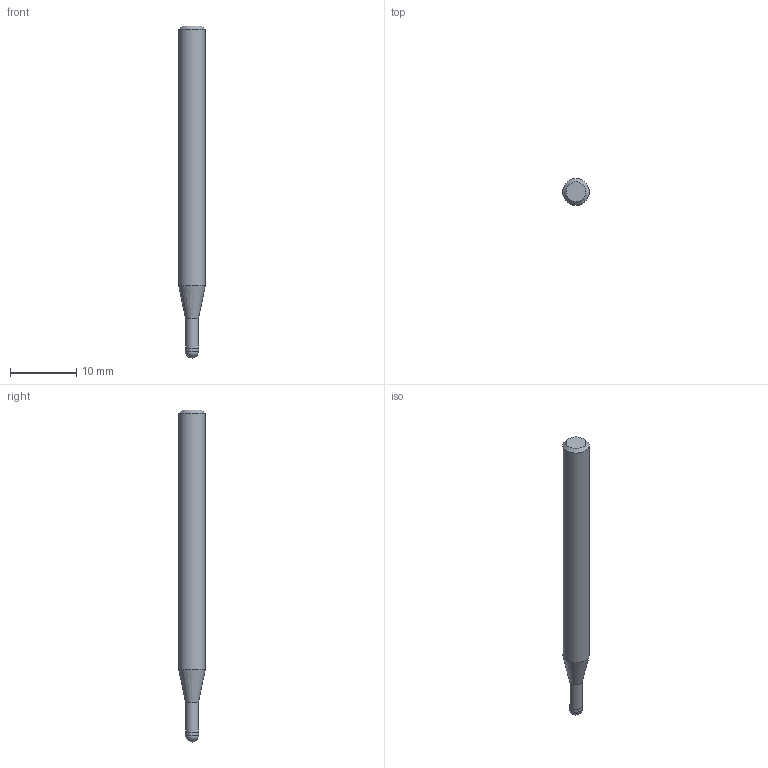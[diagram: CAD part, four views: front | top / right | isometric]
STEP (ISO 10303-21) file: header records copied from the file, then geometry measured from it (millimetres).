
FILE_DESCRIPTION((''),'2;1');
FILE_NAME('C:\Users\nsx150\AppData\Local\Temp\Mastercam 2021\ZXBT0ST9RL\TEMP.step','2021-06-25T11:03:08',(''),(''),'STEP Write','Mastercam 2021 ... CNC Software, Inc.','');
FILE_SCHEMA(('AUTOMOTIVE_DESIGN'));
Length unit declared in the file: millimetre
Products named in the file (1): None
Bounding box: 4 x 4 x 50 mm (x, y, z)
Volume: 542.5 mm3; surface area: 589.8 mm2
Topology: 2 solids, 2 shells, 9 faces, 14 edges, 8 vertices
Faces by surface type: plane 3, cylinder 3, cone 2, sphere 1
Full cylindrical faces by diameter (mm): 1.94 x1, 2 x1, 4 x1
Entity records: 211 total; most frequent: DIRECTION 36, CARTESIAN_POINT 25, AXIS2_PLACEMENT_3D 18, ORIENTED_EDGE 14, EDGE_LOOP 14, STYLED_ITEM 12, ADVANCED_FACE 9, FACE_BOUND 8
